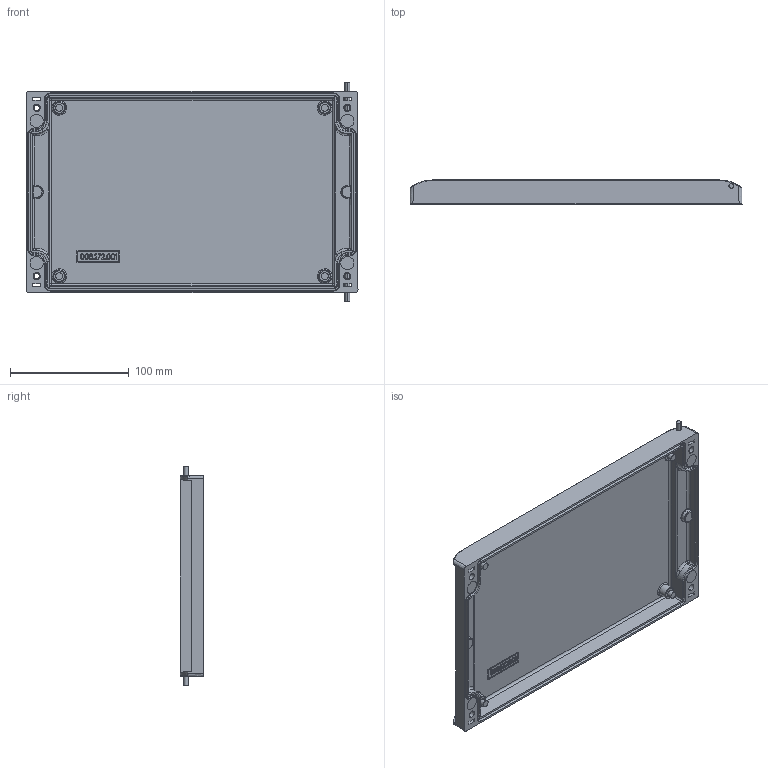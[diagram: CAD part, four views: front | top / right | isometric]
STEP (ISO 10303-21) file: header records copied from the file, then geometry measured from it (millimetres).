
FILE_DESCRIPTION(/* description */ ('VariCAD 2010-1.04 AP-203'),/* implementation_level */ '2;1');
FILE_NAME(/* name */ '0353-11-12-modifications',/* time_stamp */ '2010-01-25T18:47:52-07:00',/* author */ (''),/* organization */ (''),/* preprocessor_version */ 'ST-DEVELOPER v12',/* originating_system */ 'VariCAD 2010-1.04; kernel version (20090520)',/* authorisation */ '');
FILE_SCHEMA (('CONFIG_CONTROL_DESIGN'));
Products named in the file (1): Part
Bounding box: 280 x 20 x 184.35 mm (x, y, z)
Volume: 235646.5 mm3; surface area: 140717.4 mm2
Topology: 18 solids, 18 shells, 817 faces, 2041 edges, 1298 vertices
Faces by surface type: plane 465, bspline 244, cylinder 84, cone 24
Entity records: 153917 total; most frequent: CARTESIAN_POINT 135849, ORIENTED_EDGE 4082, DIRECTION 2905, EDGE_CURVE 2041, LINE 1437, VECTOR 1437, VERTEX_POINT 1298, EDGE_LOOP 899
